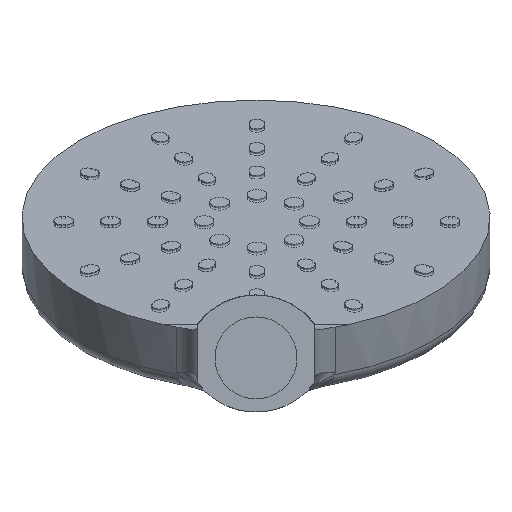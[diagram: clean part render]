
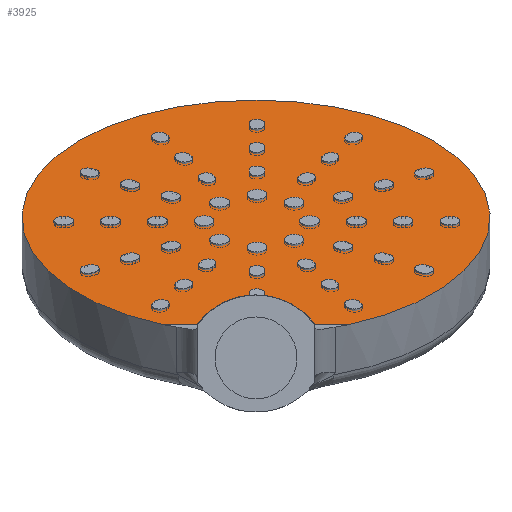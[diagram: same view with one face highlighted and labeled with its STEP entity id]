
A CAD part, front view. The second image highlights one B-rep face of the part: STEP entity #3925.
In plain terms, the highlighted planar face has unit normal (0, -0.5, 0.866) as drawn and (0.497, -0.5, 0.709) by its records, which use the part's own axes.
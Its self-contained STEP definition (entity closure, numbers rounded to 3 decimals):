
#76=LINE('',#6561,#381);
#381=VECTOR('',#4790,10.);
#771=PLANE('',#4322);
#941=CIRCLE('',#4313,60.);
#1137=FACE_OUTER_BOUND('',#1397,.T.);
#1397=EDGE_LOOP('',(#2654,#2655));
#1692=VERTEX_POINT('',#6339);
#1693=VERTEX_POINT('',#6344);
#2056=EDGE_CURVE('',#1692,#1693,#941,.T.);
#2071=EDGE_CURVE('',#1693,#1692,#76,.T.);
#2654=ORIENTED_EDGE('',*,*,#2071,.F.);
#2655=ORIENTED_EDGE('',*,*,#2056,.F.);
#3925=ADVANCED_FACE('',(#1137),#771,.T.);
#4313=AXIS2_PLACEMENT_3D('',#6345,#4777,#4778);
#4322=AXIS2_PLACEMENT_3D('',#6736,#4801,#4802);
#4777=DIRECTION('center_axis',(-0.497,0.5,-0.709));
#4778=DIRECTION('ref_axis',(-0.867,-0.24,0.437));
#4790=DIRECTION('',(-0.819,0.,0.574));
#4801=DIRECTION('center_axis',(0.497,-0.5,0.709));
#4802=DIRECTION('ref_axis',(0.819,0.,-0.574));
#6339=CARTESIAN_POINT('',(34.268,592.407,20.768));
#6344=CARTESIAN_POINT('',(73.554,592.407,-6.74));
#6345=CARTESIAN_POINT('Origin',(69.684,640.038,29.54));
#6561=CARTESIAN_POINT('',(53.911,592.407,7.014));
#6736=CARTESIAN_POINT('Origin',(86.892,692.,54.115));
